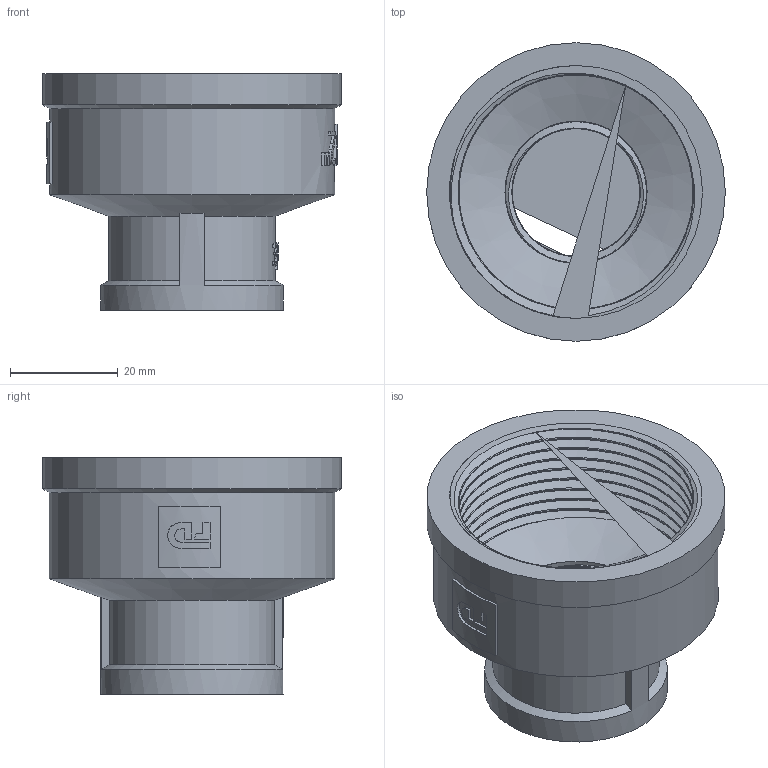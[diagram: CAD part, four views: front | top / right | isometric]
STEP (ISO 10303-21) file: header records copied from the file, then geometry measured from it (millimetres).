
FILE_DESCRIPTION(/* description */ (''),/* implementation_level */ '2;1');
FILE_NAME(/* name */ 'C:\Users\Doom\Desktop\Фадотех\Резьба\M18 17.03.2020\M18 17.03.2020.stp',/* time_stamp */ '2022-01-05T23:45:40+02:00',/* author */ ('Doom'),/* organization */ (''),/* preprocessor_version */ 'ST-DEVELOPER v18',/* originating_system */ 'Autodesk Inventor 2020',/* authorisation */ '');
FILE_SCHEMA (('AUTOMOTIVE_DESIGN { 1 0 10303 214 3 1 1 }'));
Length unit declared in the file: millimetre
Products named in the file (1): M18 17.03.2020
Bounding box: 55.5 x 55.5 x 44 mm (x, y, z)
Volume: 28387.9 mm3; surface area: 28597.5 mm2
Topology: 3 solids, 3 shells, 204 faces, 554 edges, 367 vertices
Faces by surface type: plane 100, cylinder 51, bspline 48, cone 5
Full cylindrical faces by diameter (mm): 23.71 x14, 26.4 x2, 34 x1, 43.576 x9, 47 x2, 53 x1, 55.5 x1
Entity records: 18271 total; most frequent: CARTESIAN_POINT 13405, ORIENTED_EDGE 1092, DIRECTION 861, EDGE_CURVE 546, VERTEX_POINT 363, AXIS2_PLACEMENT_3D 316, LINE 229, VECTOR 229
